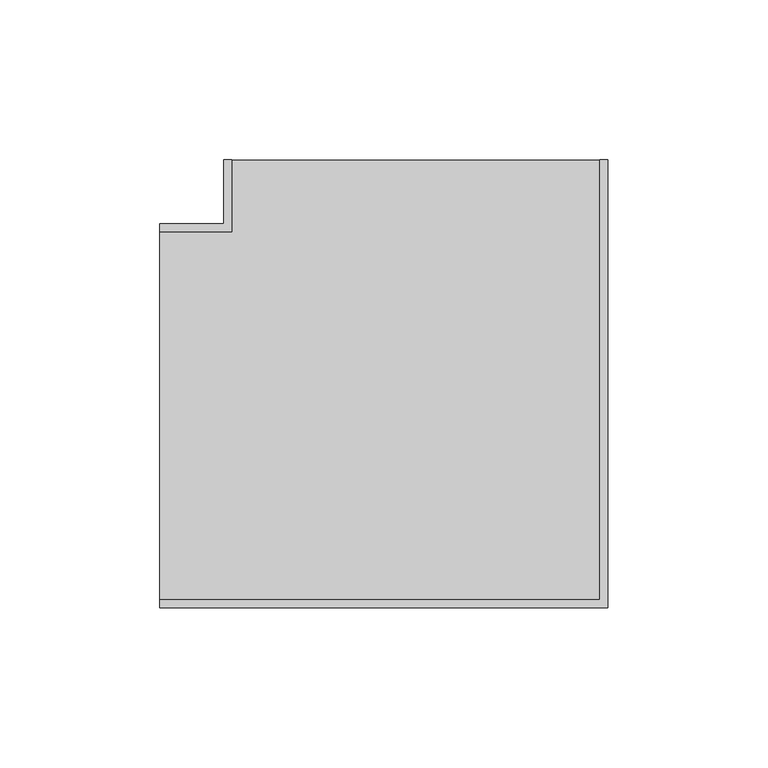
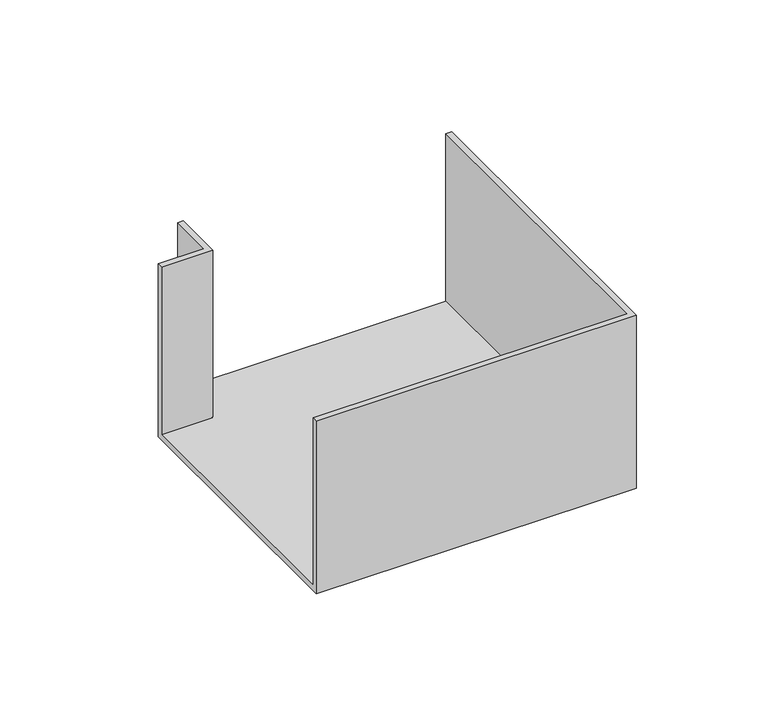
"""IFC4 building model written with IfcOpenShell, lengths in millimetres: cable carrier fitting geometry, КНС_УголПлоский NPAN_ILC_DKC : Угол плоский NPAN_DKC."""

from ifc_helpers import new_model, si_unit, origin, place, context, project, spatial, faceted_brep, source, transform, mapped, element, save


def cable_carrier_fitting_4b7b0116(model_context):
    return source(origin(), model_context, "Body", "Brep", [
        faceted_brep([(-80.0, 60.0, -40.0), (-80.0, -60.0, -40.0), (-80.0, -60.0, 40.0), (-80.0, -57.5, 40.0), (-80.0, -57.5, -37.5), (-80.0, 57.5, -37.5), (-80.0, 57.5, 40.0), (-80.0, 60.0, 40.0), (-60.0, 60.0, -40.0), (-60.0, 80.0, -40.0), (60.0, 80.0, -40.0), (60.0, -60.0, -40.0), (60.0, -60.0, 40.0), (60.0, 80.0, 40.0), (57.5, 80.0, 40.0), (57.5, -57.5, 40.0), (57.5, -57.5, -37.5), (57.5, 80.0, -37.5), (-57.5, 80.0, -37.5), (-57.5, 57.5, -37.5), (-57.5, 57.5, 40.0), (-57.5, 80.0, 40.0), (-60.0, 80.0, 40.0), (-60.0, 60.0, 40.0)], [[[0, 1, 2, 3, 4, 5, 6, 7]], [[1, 0, 8, 9, 10, 11]], [[2, 1, 11, 12]], [[3, 2, 12, 13, 14, 15]], [[4, 3, 15, 16]], [[5, 4, 16, 17, 18, 19]], [[6, 5, 19, 20]], [[7, 6, 20, 21, 22, 23]], [[0, 7, 23, 8]], [[9, 22, 21, 18, 17, 14, 13, 10]], [[12, 11, 10, 13]], [[16, 15, 14, 17]], [[20, 19, 18, 21]], [[8, 23, 22, 9]]]),
    ])


if __name__ == "__main__":
    model = new_model("IFC4")
    model_context = context("Model", 3, world=origin())
    ifc_project = project(units=[si_unit("LENGTHUNIT", "METRE", prefix="MILLI")], contexts=[model_context])
    site = spatial("IfcSite", under=ifc_project)
    building = spatial("IfcBuilding", under=site)
    placement = place(None, origin())
    cable_carrier_fitting_shape = cable_carrier_fitting_4b7b0116(model_context)
    element("IfcCableCarrierFitting", 1, ObjectType="КНС_УголПлоский NPAN_ILC_DKC : Угол плоский NPAN_DKC", at=placement, inside=building, context=model_context, shape_type="MappedRepresentation", body=[
        mapped(cable_carrier_fitting_shape, transform((0.0, 0.0, 0.0), x_axis=(1.0, 0.0, 0.0), y_axis=(0.0, 1.0, 0.0), z_axis=(0.0, 0.0, 1.0))),
    ])
    save(model, "model.ifc")
